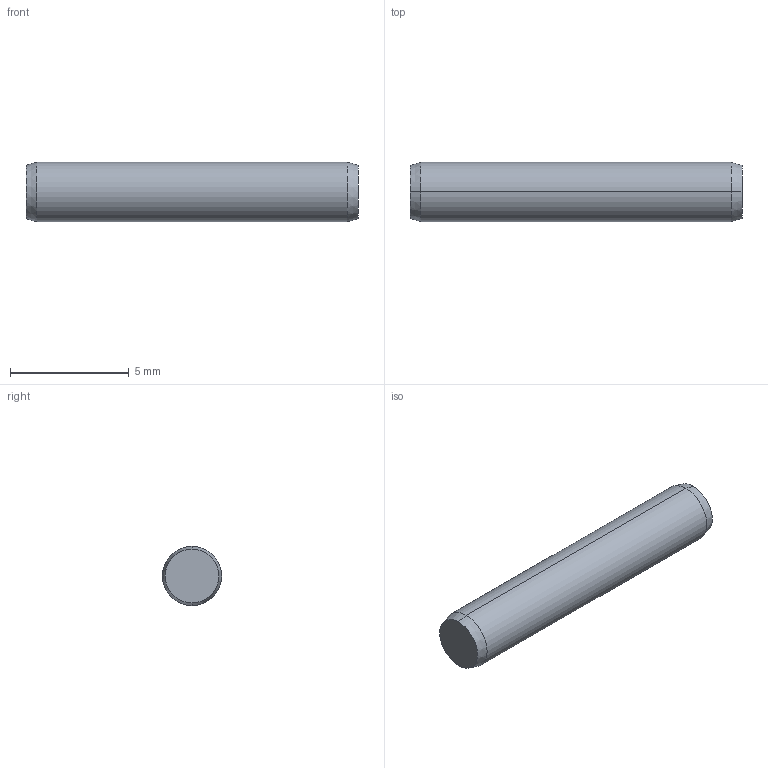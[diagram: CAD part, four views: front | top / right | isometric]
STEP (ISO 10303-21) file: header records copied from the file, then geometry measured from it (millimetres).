
FILE_DESCRIPTION (( 'STEP AP203' ), '1' );
FILE_NAME ('P1206.025-014.step', '2017-06-14T08:00:32', ( 'User' ), ( '' ), 'SwSTEP 2.0', 'SolidWorks 2009', '' );
FILE_SCHEMA (( 'CONFIG_CONTROL_DESIGN' ));
Length unit declared in the file: millimetre
Products named in the file (1): P1206.025-014
Bounding box: 14 x 2.5 x 2.5 mm (x, y, z)
Volume: 68.3 mm3; surface area: 117.9 mm2
Topology: 1 solids, 1 shells, 8 faces, 14 edges, 8 vertices
Faces by surface type: cone 4, cylinder 2, plane 2
Entity records: 271 total; most frequent: DIRECTION 40, CARTESIAN_POINT 31, ORIENTED_EDGE 28, AXIS2_PLACEMENT_3D 17, EDGE_CURVE 14, VERTEX_POINT 8, ADVANCED_FACE 8, EDGE_LOOP 8
